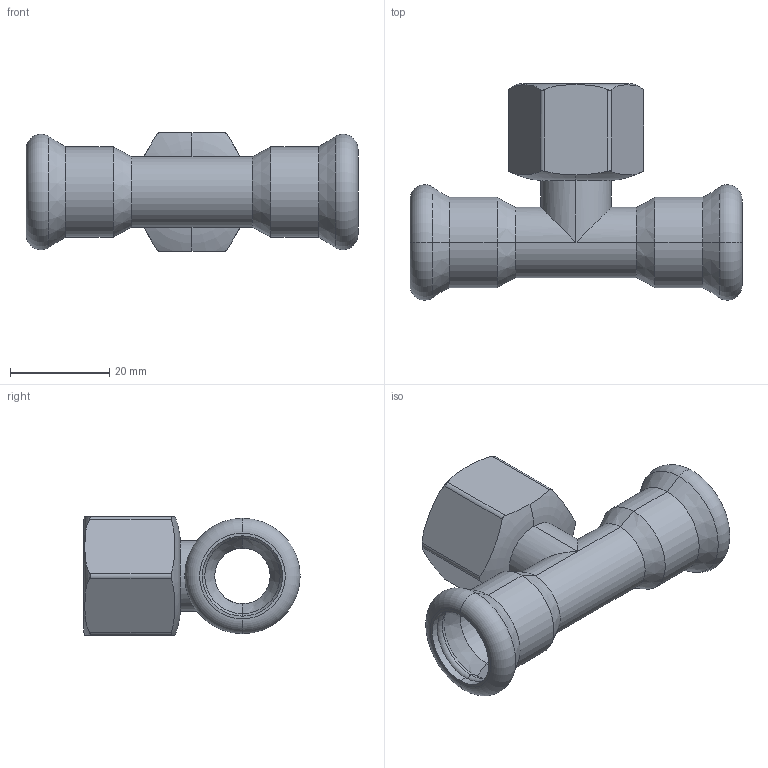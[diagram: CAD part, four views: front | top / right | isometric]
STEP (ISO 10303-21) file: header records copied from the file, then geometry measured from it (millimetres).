
FILE_DESCRIPTION (( 'STEP AP214' ), '1' );
FILE_NAME ('T15150F.STEP', '2025-08-17T14:11:25', ( '' ), ( '' ), 'SwSTEP 2.0', 'SolidWorks 2020', '' );
FILE_SCHEMA (( 'AUTOMOTIVE_DESIGN' ));
Length unit declared in the file: millimetre
Products named in the file (1): T15150F
Bounding box: 67 x 43.64 x 24 mm (x, y, z)
Volume: 9685.7 mm3; surface area: 12375.8 mm2
Topology: 3 solids, 3 shells, 107 faces, 256 edges, 152 vertices
Faces by surface type: cylinder 54, torus 20, cone 18, plane 12, bspline 3
Entity records: 6331 total; most frequent: CARTESIAN_POINT 2792, ORIENTED_EDGE 512, DIRECTION 467, EDGE_CURVE 256, AXIS2_PLACEMENT_3D 192, VERTEX_POINT 152, UNCERTAINTY_MEASURE_WITH_UNIT 112, EDGE_LOOP 112
